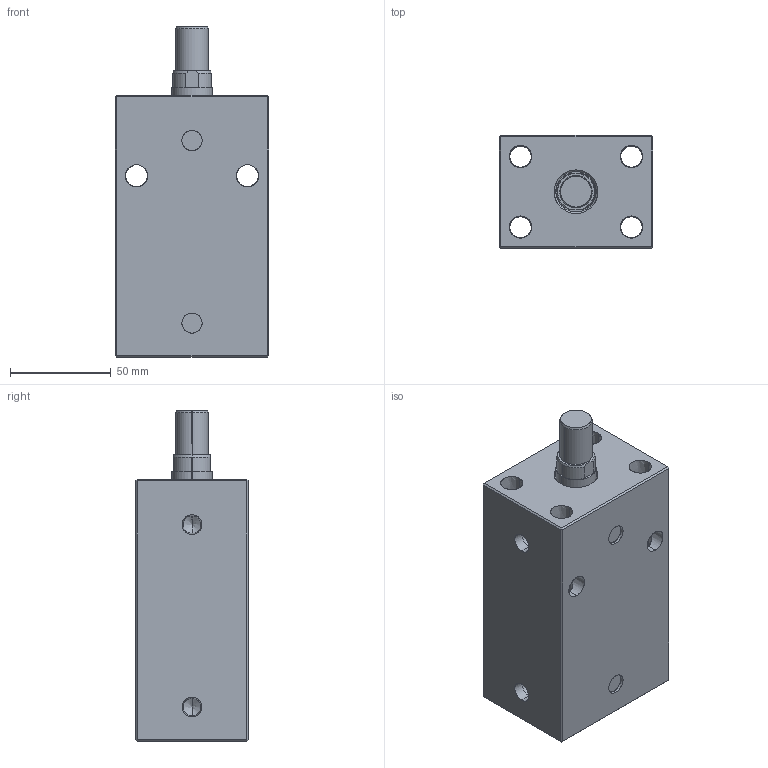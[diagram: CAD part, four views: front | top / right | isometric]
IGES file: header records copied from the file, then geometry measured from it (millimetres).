
Start section: SolidWorks IGES file using analytic representation for surfaces
Global section: file name: E:\ALL-SSVT-BLOCK\32-bore-igs model\BC04-32-75-M.IGS; native system: SolidWorks 2019; preprocessor: SolidWorks 2019; author: SSVT; date: 210825.131035; units: millimetre
Bounding box: 76 x 56 x 164 mm (x, y, z)
Surface area: 78785.5 mm2 (no closed solid volume)
Topology: 0 solids, 0 shells, 95 faces, 1728 edges, 1724 vertices
Faces by surface type: revolution 60, bspline 35
